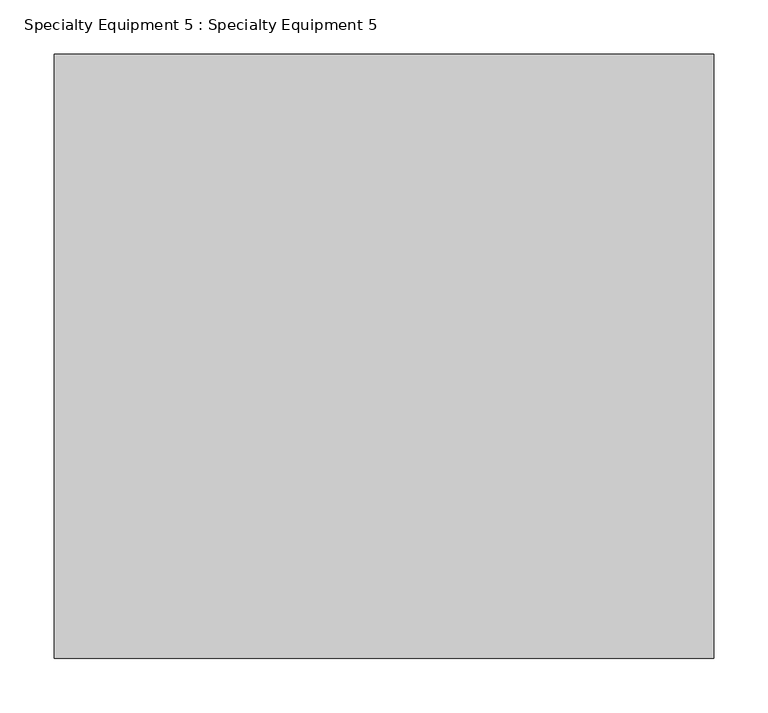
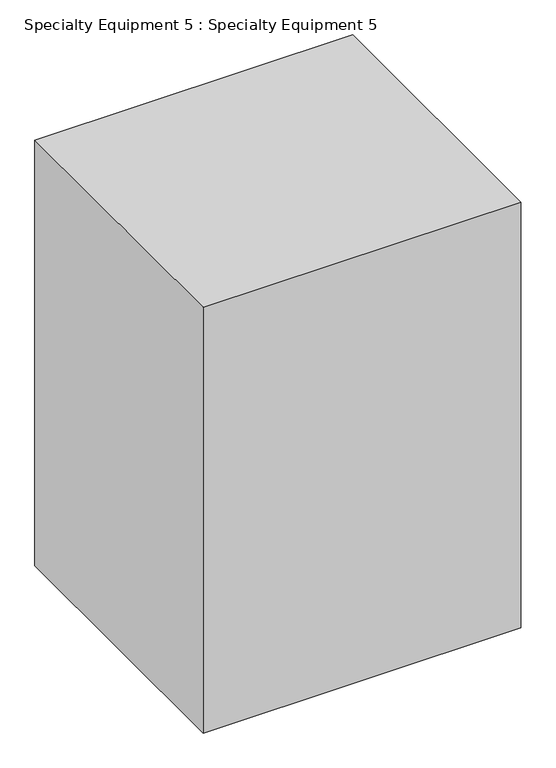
"""IFC4 building model written with IfcOpenShell, lengths in millimetres: proxy geometry, Specialty Equipment 5 : Specialty Equipment 5."""

from ifc_helpers import new_model, si_unit, frame, origin, place, context, project, spatial, polyline, outline, extrude, source, transform, mapped, element, save


def specialty_equipment_5_specialty_equipment_5_0c726e48(model_context):
    return source(origin(), model_context, "Body", "SweptSolid", [
        extrude(outline(polyline([(3886.2, 6099.0695801), (3886.2, 5540.2695801), (3276.6, 5540.2695801), (3276.6, 6099.0695801), (3886.2, 6099.0695801)])), frame((0.0, 0.0, 3348.0), z_axis=(0.0, 0.0, 1.0), x_axis=(1.0, 0.0, 0.0)), (0.0, 0.0, 1.0), 863.6),
    ])


if __name__ == "__main__":
    model = new_model("IFC4")
    model_context = context("Model", 3, world=origin())
    ifc_project = project(units=[si_unit("LENGTHUNIT", "METRE", prefix="MILLI")], contexts=[model_context])
    site = spatial("IfcSite", under=ifc_project)
    building = spatial("IfcBuilding", under=site)
    placement = place(None, origin())
    specialty_equipment_5_specialty_equipment_5_shape = specialty_equipment_5_specialty_equipment_5_0c726e48(model_context)
    element("IfcBuildingElementProxy", 1, Name="Specialty Equipment 5 : Specialty Equipment 5", ObjectType="Specialty Equipment 5 : Specialty Equipment 5", at=placement, inside=building, context=model_context, shape_type="MappedRepresentation", body=[
        mapped(specialty_equipment_5_specialty_equipment_5_shape, transform((0.0, 0.0, 0.0), x_axis=(1.0, 0.0, 0.0), y_axis=(0.0, 1.0, 0.0), z_axis=(0.0, 0.0, 1.0))),
    ])
    save(model, "model.ifc")
